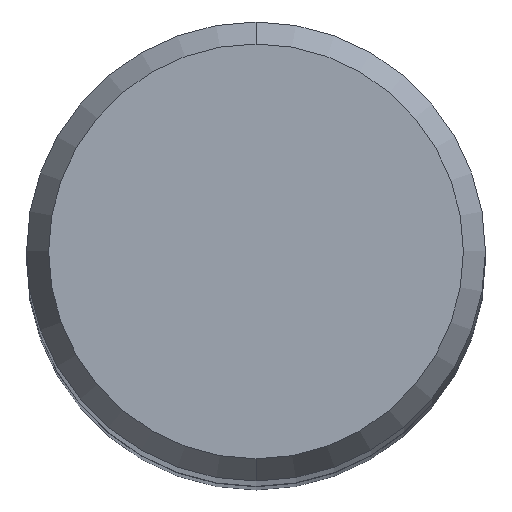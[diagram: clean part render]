
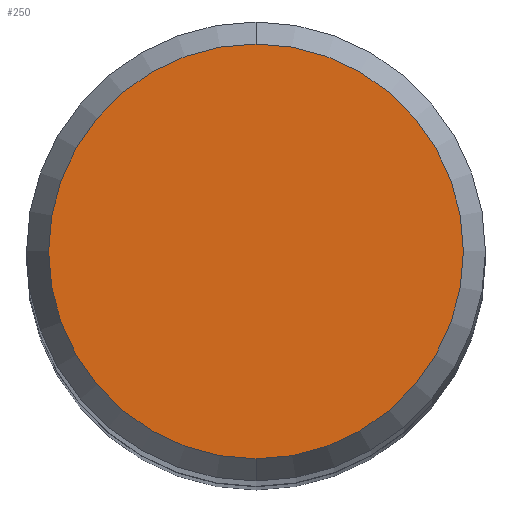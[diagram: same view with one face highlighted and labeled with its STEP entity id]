
A CAD part, top view. The second image highlights one B-rep face of the part: STEP entity #250.
In plain terms, the highlighted free-form (B-spline) face has degree [1, 1] with [2, 2] control points.
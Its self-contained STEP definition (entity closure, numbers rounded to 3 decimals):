
#37=CARTESIAN_POINT('',(0.,0.,0.));
#38=DIRECTION('',(0.,0.,1.));
#39=DIRECTION('',(0.,1.,0.));
#40=AXIS2_PLACEMENT_3D('',#37,#38,#39);
#42=CARTESIAN_POINT('',(0.,0.,0.));
#43=DIRECTION('',(0.,0.,-1.));
#44=DIRECTION('',(0.,1.,0.));
#45=AXIS2_PLACEMENT_3D('',#42,#43,#44);
#150=CARTESIAN_POINT('',(0.,2.711,0.));
#152=VERTEX_POINT('',#150);
#154=CARTESIAN_POINT('',(0.,-2.711,0.));
#156=VERTEX_POINT('',#154);
#241=CARTESIAN_POINT('',(2.82,2.82,0.));
#242=CARTESIAN_POINT('',(-2.82,2.82,0.));
#243=CARTESIAN_POINT('',(2.82,-2.82,0.));
#244=CARTESIAN_POINT('',(-2.82,-2.82,0.));
#245=B_SPLINE_SURFACE_WITH_KNOTS('',1,1,((#241,#242),(#243,#244)),.UNSPECIFIED.,
.F.,.F.,.F.,(2,2),(2,2),(-2.82,2.82),(-2.82,
2.82),.UNSPECIFIED.);
#246=ORIENTED_EDGE('',*,*,#226,.F.);
#247=ORIENTED_EDGE('',*,*,#194,.T.);
#248=EDGE_LOOP('',(#246,#247));
#249=FACE_OUTER_BOUND('',#248,.F.);
#41=CIRCLE('',#40,2.711);
#46=CIRCLE('',#45,2.711);
#194=EDGE_CURVE('',#152,#156,#46,.T.);
#226=EDGE_CURVE('',#152,#156,#41,.T.);
#250=ADVANCED_FACE('',(#249),#245,.F.);
